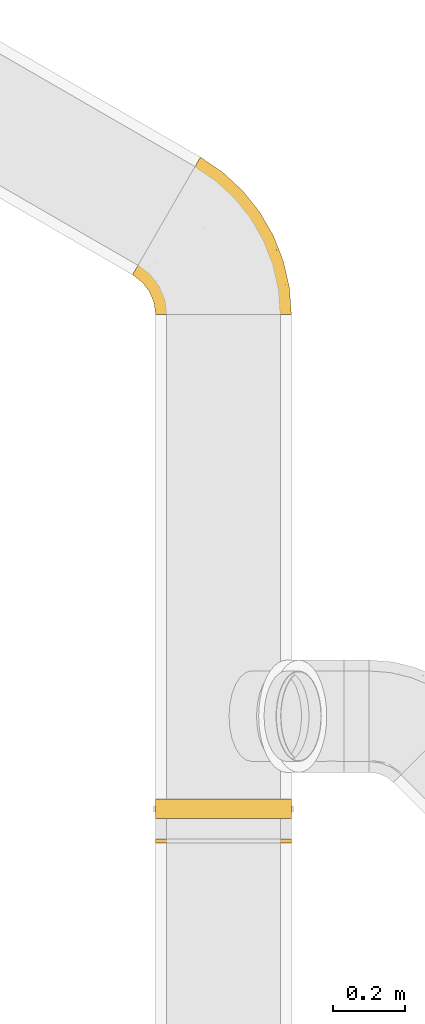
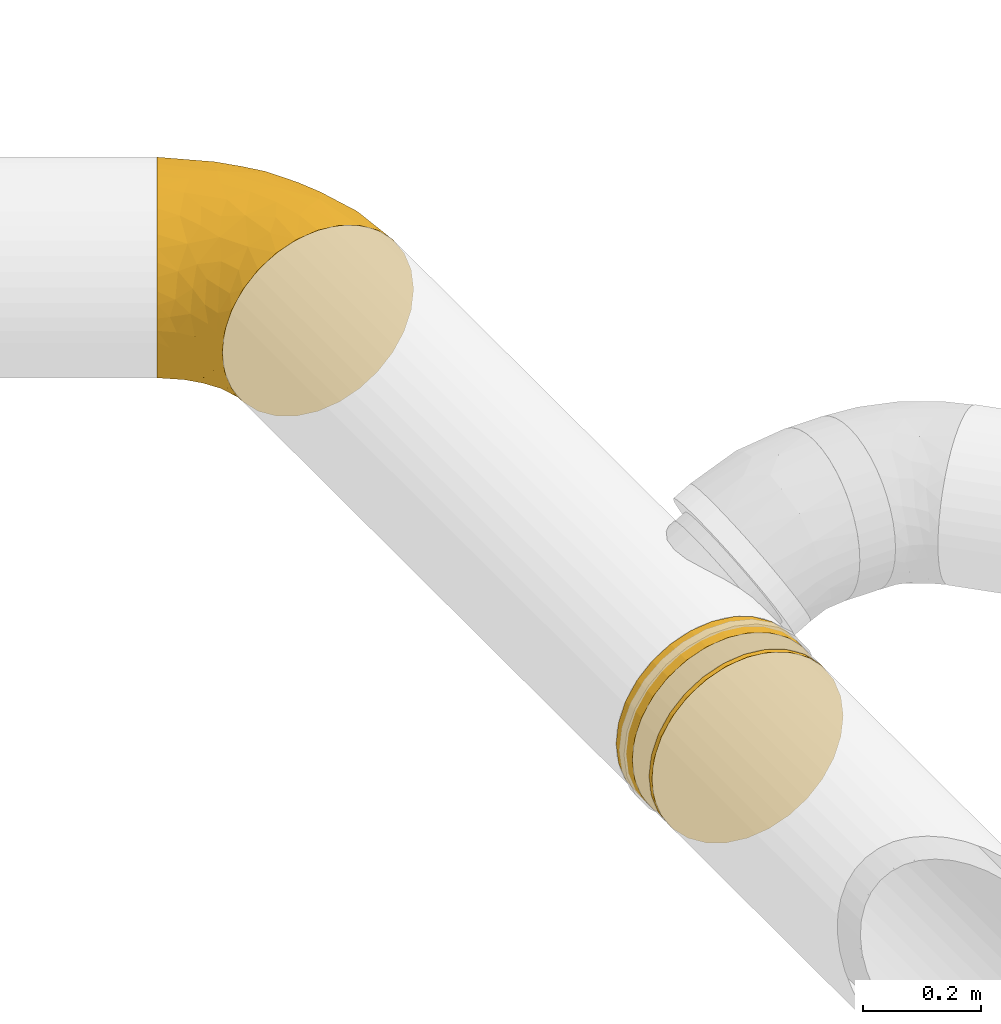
# One storey, part 4 of 21: 3 coverings.
"""IFC2X3 building model written with IfcOpenShell, lengths in millimetres."""

from ifc_helpers import new_model, entity, si_unit, converted_unit, derived_unit, direction, frame, origin_with_axes, place, context, subcontext, project, spatial, open_shell, surface_model, source, transform, mapped, element, save


model = new_model("IFC2X3")

# Units and contexts
model_context = context("Model", 3, precision=0.01, world=frame((0.0, 4.29681676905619e-09, 0.0)), true_north=direction((4.01073788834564e-13, 1.0)))
plan_context = context("Plan", 3, precision=0.01, world=frame((0.0, 4.29681676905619e-09, 0.0)), true_north=direction((4.01073788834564e-13, 1.0)))
body_context = subcontext(model_context, "Body", "Model", "MODEL_VIEW")
ifc_project = project(units=[converted_unit("PLANEANGLEUNIT", "DEGREE", entity("IfcPositiveLengthMeasure", 0.0174532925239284), si_unit("PLANEANGLEUNIT", "RADIAN"), dimensions=[0, 0, 0, 0, 0, 0, 0]), si_unit("AREAUNIT", "SQUARE_METRE"), si_unit("LENGTHUNIT", "METRE", prefix="MILLI"), si_unit("MASSUNIT", "GRAM", prefix="KILO"), si_unit("POWERUNIT", "WATT"), si_unit("PRESSUREUNIT", "PASCAL"), si_unit("FORCEUNIT", "NEWTON", prefix="KILO"), si_unit("ELECTRICVOLTAGEUNIT", "VOLT"), si_unit("ELECTRICCURRENTUNIT", "AMPERE"), si_unit("THERMODYNAMICTEMPERATUREUNIT", "DEGREE_CELSIUS"), si_unit("TIMEUNIT", "SECOND"), si_unit("VOLUMEUNIT", "CUBIC_METRE"), derived_unit("LINEARVELOCITYUNIT", [(si_unit("LENGTHUNIT", "METRE"), 1), (si_unit("TIMEUNIT", "SECOND"), -1)]), derived_unit("VOLUMETRICFLOWRATEUNIT", [(si_unit("VOLUMEUNIT", "CUBIC_METRE"), 1), (si_unit("TIMEUNIT", "SECOND"), -1)]), derived_unit("THERMALTRANSMITTANCEUNIT", [(si_unit("POWERUNIT", "WATT"), 1), (si_unit("THERMODYNAMICTEMPERATUREUNIT", "KELVIN"), -1), (si_unit("AREAUNIT", "SQUARE_METRE"), -1)]), derived_unit("SOUNDPRESSUREUNIT", [(si_unit("PRESSUREUNIT", "PASCAL"), 1)])], contexts=[model_context, plan_context])

# Site, building, storey
site_placement = place(None, frame((0.0, -4.29681676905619e-09, 0.0), z_axis=(0.0, 0.0, 1.0), x_axis=(1.0, 0.0, 0.0)))
site = spatial("IfcSite", under=ifc_project, at=site_placement, Name="ENGM", CompositionType="ELEMENT")
building_placement = place(site_placement, frame((0.0, 4.29681676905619e-09, 0.0), z_axis=(0.0, 0.0, 1.0), x_axis=(1.0, 0.0, 0.0)))
building = spatial("IfcBuilding", under=site, at=building_placement, Name="TI", CompositionType="ELEMENT")
storey_placement = place(building_placement, frame((0.0, 0.0, 210900.0), z_axis=(0.0, 0.0, 1.0), x_axis=(1.0, 0.0, 0.0)))
storey = spatial("IfcBuildingStorey", under=building, at=storey_placement, Name="Nivå F", CompositionType="ELEMENT", Elevation=210900.0)

# Coverings
shared_shape_1 = source(origin_with_axes(), body_context, "Body", "SurfaceModel", [
    surface_model("IfcShellBasedSurfaceModel", [(-70.05796, 250.44799, 24.47321), (-65.91434, 248.05566, 48.5277), (-59.08712, 244.11397, 71.7519), (-65.9132, 248.05501, -48.53263), (-71.4471, 251.25, 0.0), (-23.88876, 223.79219, 132.58067), (48.90217, 181.76632, 181.11), (-49.69085, 238.68903, -93.75296), (-59.08541, 244.11297, -71.75667), (-37.89027, 231.87596, -114.14517), (-70.05738, 250.44765, -24.47835), (48.90645, 181.76385, -181.11133), (90.93267, 157.5, -187.5), (69.73825, 169.73661, -185.89598), (153.07163, 121.62405, 173.22793), (112.12709, 145.2634, 185.89598), (132.95889, 133.23615, 181.11133), (172.12122, 110.62577, 162.38066), (189.78169, 100.42949, 148.75509), (205.7509, 91.20967, 132.58437), (219.75561, 83.12404, 114.14517), (231.55618, 76.31098, 93.75296), (112.13155, 145.26082, -185.89528), (132.96316, 133.23368, -181.11), (-181.86533, 187.5, 0.0), (-181.86533, 182.79898, -41.72268), (-181.86533, 168.93166, -81.3532), (-181.86533, 182.79898, 41.72268), (-181.86533, 146.5934, -116.90434), (-181.86533, 116.90434, -146.5934), (-181.86533, 81.3532, -168.93166), (-181.86533, 168.93166, 81.3532), (-181.86533, 116.90434, 146.5934), (-181.86533, 146.5934, 116.90434), (-181.86533, -168.93166, -81.3532), (-181.86533, -182.79898, -41.72268), (-181.86533, -146.5934, -116.90434), (-181.86533, -81.3532, 168.93166), (-181.86533, -146.5934, 116.90434), (-181.86533, -116.90434, 146.5934), (-181.86533, -168.93166, 81.3532), (-181.86533, -182.79898, 41.72268), (59.43866, 112.5219, 187.5), (60.18192, 57.43318, 183.51507), (-97.35497, -170.51043, 59.49457), (-106.9716, -181.8875, 0.0), (-33.75086, -165.17533, 0.0), (-86.31865, -57.399, 174.15921), (-42.69094, -84.52447, 153.22155), (36.16124, -137.73686, 0.0), (-2.78, -145.98652, 54.01754), (-181.86533, -187.5, 0.0), (-107.37447, -26.15289, 184.3563), (-74.12899, 18.99682, 187.5), (-127.16616, 4.78556, 187.5), (101.203, -100.18498, 0.0), (87.9691, -103.06479, 42.65811), (-68.62762, -147.70999, 95.48659), (159.92147, -53.35857, 0.0), (-24.36533, 42.202, 187.5), (-29.18279, -3.77199, 183.51507), (159.85492, -12.70472, 100.23521), (240.95074, 70.88702, 71.75667), (33.76438, -4.15369, 173.87509), (109.86293, 34.67616, 164.71571), (-93.64582, -127.40738, 128.9507), (112.62265, -18.78613, 134.99521), (-181.86533, -41.72268, 182.79898), (53.74969, -33.30113, 154.99686), (-181.86533, 0.0, 187.5), (64.51363, -93.10536, 94.90033), (30.62366, -82.69679, 129.1758), (162.94679, -38.48045, 56.43453), (251.92272, 64.55236, 24.47835), (211.00498, 1.69637, 0.0), (247.77854, 66.945, 48.53263), (253.31243, 63.75, 0.0), (20.61276, 73.696, 187.5), (90.93267, 157.5, 187.5), (-108.2874, 40.40341, 184.96685), (-181.86533, 41.72268, 182.79898), (-21.16372, 85.49431, 184.23748), (-181.86533, 81.3532, 168.93166), (-134.75942, 66.35002, 176.97813), (-65.14494, 206.88603, 104.16776), (-47.98106, 178.26052, 140.9681), (-124.45134, 188.4264, 64.61805), (-153.74596, 179.87289, 61.92732), (-134.0277, 166.26449, 99.756), (-71.72876, 78.81135, 179.43654), (-81.86071, 232.43701, 28.52549), (-128.19026, 106.55585, 158.76079), (-38.77936, 147.11278, 161.99662), (-2.7119, 167.48921, 168.16205), (-7.79937, 129.02545, 177.54812), (33.06864, 138.02837, 183.89637), (-161.61944, 187.00557, 27.88925), (-46.45792, 111.80714, 173.60986), (-160.20804, 160.26909, 99.75601), (-147.91089, 135.77045, 132.58252), (-106.67196, 206.46133, 41.01294), (-91.70922, 224.84389, 0.0), (-118.11534, 204.58175, 0.0), (69.73379, 169.73919, 185.89528), (-110.32896, 148.17261, 131.67703), (-80.80818, 178.8129, 118.36838), (-107.75283, 175.13448, 102.94433), (-37.89302, 231.87754, 114.14103), (-76.65049, 132.30286, 155.89877), (-7.91995, 214.57259, 148.75191), (-49.6931, 238.69032, 93.74847), (-95.95386, 195.92049, 82.92772), (28.78957, 193.37833, 173.22595), (-140.18646, 191.05035, 34.86179), (9.74022, 204.37648, 162.37804), (-81.02679, 221.59681, 60.26883), (-148.8659, 191.84445, 0.0), (-164.49746, 178.07521, -61.92732), (-161.51856, 186.99117, -28.08818), (-142.65645, 182.66443, -61.92732), (-144.48439, 136.45364, -132.58252), (-68.364, 221.83975, -82.93237), (-106.14928, 146.62622, -134.74407), (-126.51279, 161.94369, -109.44677), (-102.46498, 177.12765, -104.17208), (-151.61159, 101.89278, -158.76079), (-26.71643, 172.24479, -155.90166), (-23.88556, 223.79034, -132.58437), (-7.91636, 214.57051, -148.75509), (-115.23555, 110.32843, -158.76079), (-114.78092, 198.1302, -51.65203), (-94.86033, 218.56527, -29.7968), (-80.52615, 231.82228, -36.58382), (20.61276, 73.696, -187.5), (20.71797, 112.41669, -185.32074), (59.43866, 112.5219, -187.5), (-127.16616, 4.78556, -187.5), (-181.86533, 0.0, -187.5), (-181.86533, 41.72268, -182.79898), (-154.21006, 161.22784, -99.75601), (-113.52667, 59.95664, -180.44213), (-60.1113, 190.64946, -123.62946), (-63.82138, 157.41655, -145.62631), (-74.12899, 18.99682, -187.5), (-81.55838, 127.68142, -156.99318), (-73.22652, 90.49369, -175.65374), (-44.75773, 127.75938, -168.16434), (-24.60556, 90.40978, -183.00135), (-24.36533, 42.202, -187.5), (-87.58529, 214.97854, -60.27369), (9.74412, 204.37423, -162.38066), (-82.5029, 198.72626, -94.31197), (5.58827, 142.52068, -177.54975), (28.7937, 193.37595, -173.22793), (-61.83398, 57.59194, -184.92265), (-141.57774, 191.36828, -30.69987), (-101.44668, -59.71954, -174.63662), (-85.71326, -22.05482, -184.1084), (-17.44822, -24.07446, -177.01047), (139.47282, -14.60752, -118.47712), (40.99908, -96.53247, -108.37941), (33.51983, -59.23025, -146.68779), (-181.86533, -81.3532, -168.93166), (-181.86533, -41.72268, -182.79898), (127.24475, -76.26729, -37.86292), (186.47443, -13.42455, -57.41033), (115.02838, -70.03267, -76.45156), (61.95183, 48.16759, -181.65521), (96.50865, 19.50614, -163.95538), (-97.85661, -170.59249, -59.50926), (-91.63353, -95.31122, -155.2642), (-181.86533, -116.90434, -146.5934), (-3.50153, -144.7562, -58.49395), (-55.44369, -145.63435, -93.24949), (169.58344, -11.04715, -90.16297), (219.75835, 83.12245, -114.14103), (231.55843, 76.30968, -93.74847), (140.06819, 23.68222, -144.75413), (-60.24341, -120.81121, -127.51474), (153.07578, 121.62166, -173.22595), (172.12512, 110.62352, -162.37804), (189.78529, 100.42742, -148.75191), (247.77968, 66.94434, -48.5277), (240.95244, 70.88603, -71.7519), (205.7541, 91.20781, -132.58067), (251.9233, 64.55201, -24.47321)], [open_shell([[[0, 1, 2]], [[3, 4, 0]], [[0, 5, 6]], [[3, 7, 8]], [[3, 9, 7]], [[10, 4, 3]], [[11, 12, 13]], [[14, 15, 16]], [[14, 17, 18]], [[19, 14, 18]], [[19, 20, 21]], [[22, 12, 23]], [[24, 25, 26]], [[27, 24, 26]], [[28, 29, 30]], [[31, 32, 33]], [[32, 31, 27]], [[34, 35, 36]], [[37, 38, 39]], [[40, 38, 41]], [[15, 42, 43]], [[44, 45, 46]], [[47, 37, 48]], [[46, 49, 50]], [[45, 41, 51]], [[52, 53, 54]], [[49, 55, 56]], [[40, 57, 38]], [[55, 58, 56]], [[59, 53, 60]], [[61, 62, 21]], [[46, 50, 44]], [[63, 64, 43]], [[38, 65, 39]], [[18, 64, 66]], [[37, 47, 67]], [[64, 68, 66]], [[69, 67, 52]], [[43, 64, 16]], [[38, 57, 65]], [[60, 47, 63]], [[60, 43, 59]], [[70, 50, 56]], [[52, 60, 53]], [[41, 44, 40]], [[63, 43, 60]], [[71, 66, 68]], [[39, 48, 37]], [[56, 58, 72]], [[68, 64, 63]], [[21, 20, 61]], [[61, 19, 66]], [[63, 48, 68]], [[19, 61, 20]], [[73, 72, 74]], [[19, 18, 66]], [[70, 61, 66]], [[75, 72, 73]], [[68, 48, 71]], [[72, 75, 62]], [[65, 71, 48]], [[74, 76, 73]], [[64, 18, 17]], [[66, 71, 70]], [[63, 47, 48]], [[59, 43, 77]], [[40, 44, 57]], [[78, 42, 15]], [[71, 65, 57]], [[42, 77, 43]], [[45, 44, 41]], [[64, 14, 16]], [[71, 57, 70]], [[43, 16, 15]], [[48, 39, 65]], [[72, 61, 70]], [[17, 14, 64]], [[52, 47, 60]], [[57, 44, 50]], [[58, 74, 72]], [[61, 72, 62]], [[50, 70, 57]], [[70, 56, 72]], [[49, 56, 50]], [[69, 52, 54]], [[47, 52, 67]], [[54, 53, 79]], [[54, 80, 69]], [[81, 59, 77]], [[82, 80, 83]], [[5, 84, 85]], [[86, 87, 88]], [[59, 89, 53]], [[90, 1, 0]], [[82, 83, 91]], [[83, 79, 89]], [[92, 93, 85]], [[94, 95, 93]], [[24, 27, 96]], [[97, 81, 94]], [[95, 94, 81]], [[98, 87, 31]], [[32, 99, 33]], [[100, 101, 102]], [[42, 103, 95]], [[27, 31, 87]], [[33, 98, 31]], [[104, 105, 106]], [[84, 5, 107]], [[89, 108, 91]], [[95, 77, 42]], [[79, 80, 54]], [[85, 109, 5]], [[93, 109, 85]], [[77, 95, 81]], [[84, 107, 110]], [[105, 84, 111]], [[95, 6, 112]], [[93, 92, 94]], [[93, 95, 112]], [[92, 97, 94]], [[42, 78, 103]], [[87, 113, 96]], [[109, 93, 114]], [[2, 115, 110]], [[82, 91, 32]], [[113, 100, 102]], [[115, 2, 1]], [[87, 86, 113]], [[84, 110, 115]], [[115, 1, 90]], [[93, 112, 114]], [[101, 90, 4]], [[106, 86, 88]], [[85, 84, 105]], [[115, 111, 84]], [[32, 91, 99]], [[99, 104, 88]], [[85, 108, 92]], [[103, 6, 95]], [[97, 108, 89]], [[89, 59, 81]], [[89, 91, 83]], [[104, 91, 108]], [[98, 99, 88]], [[89, 79, 53]], [[80, 79, 83]], [[100, 86, 111]], [[113, 102, 116]], [[111, 115, 100]], [[100, 115, 90]], [[108, 97, 92]], [[81, 97, 89]], [[91, 104, 99]], [[108, 85, 105]], [[106, 105, 111]], [[108, 105, 104]], [[86, 106, 111]], [[104, 106, 88]], [[99, 98, 33]], [[87, 98, 88]], [[113, 86, 100]], [[96, 113, 116]], [[24, 96, 116]], [[87, 96, 27]], [[4, 90, 0]], [[100, 90, 101]], [[117, 118, 119]], [[118, 24, 116]], [[29, 28, 120]], [[9, 121, 7]], [[25, 117, 26]], [[122, 123, 124]], [[29, 125, 30]], [[126, 127, 128]], [[129, 125, 120]], [[130, 102, 131]], [[4, 132, 101]], [[133, 134, 135]], [[136, 137, 138]], [[28, 26, 139]], [[138, 140, 136]], [[125, 140, 30]], [[141, 126, 142]], [[143, 136, 140]], [[129, 144, 145]], [[142, 126, 146]], [[129, 120, 122]], [[30, 140, 138]], [[147, 133, 148]], [[147, 145, 146]], [[132, 121, 149]], [[117, 139, 26]], [[141, 9, 127]], [[121, 9, 141]], [[101, 132, 131]], [[150, 126, 128]], [[127, 126, 141]], [[132, 3, 8]], [[121, 151, 149]], [[8, 121, 132]], [[124, 119, 130]], [[4, 10, 132]], [[152, 147, 146]], [[131, 132, 149]], [[150, 153, 152]], [[28, 139, 120]], [[152, 146, 126]], [[11, 152, 153]], [[145, 154, 140]], [[126, 150, 152]], [[134, 13, 135]], [[121, 8, 7]], [[12, 135, 13]], [[148, 143, 154]], [[134, 11, 13]], [[134, 147, 152]], [[155, 102, 130]], [[151, 121, 141]], [[141, 124, 151]], [[132, 10, 3]], [[130, 151, 124]], [[139, 123, 120]], [[123, 119, 124]], [[147, 134, 133]], [[134, 152, 11]], [[147, 148, 154]], [[129, 145, 140]], [[140, 154, 143]], [[147, 154, 145]], [[142, 124, 141]], [[122, 142, 144]], [[144, 142, 146]], [[124, 142, 122]], [[130, 131, 149]], [[102, 101, 131]], [[130, 149, 151]], [[119, 118, 155]], [[145, 144, 146]], [[122, 144, 129]], [[120, 125, 29]], [[140, 125, 129]], [[120, 123, 122]], [[119, 123, 139]], [[118, 117, 25]], [[139, 117, 119]], [[24, 118, 25]], [[118, 116, 155]], [[102, 155, 116]], [[130, 119, 155]], [[156, 157, 158]], [[159, 160, 161]], [[156, 162, 163]], [[164, 55, 49]], [[137, 136, 157]], [[58, 164, 165]], [[157, 143, 148]], [[160, 159, 166]], [[133, 135, 167]], [[167, 148, 133]], [[161, 158, 168]], [[158, 157, 148]], [[46, 45, 169]], [[170, 171, 162]], [[35, 34, 169]], [[170, 156, 158]], [[45, 51, 35]], [[143, 157, 136]], [[160, 172, 173]], [[163, 157, 156]], [[174, 175, 176]], [[172, 166, 164]], [[161, 168, 177]], [[169, 45, 35]], [[161, 170, 158]], [[46, 172, 49]], [[171, 178, 36]], [[168, 158, 167]], [[179, 168, 167]], [[163, 137, 157]], [[135, 12, 22]], [[164, 49, 172]], [[167, 22, 23]], [[173, 169, 34]], [[173, 178, 160]], [[168, 179, 180]], [[168, 180, 177]], [[34, 36, 173]], [[178, 171, 170]], [[170, 162, 156]], [[161, 178, 170]], [[177, 180, 181]], [[169, 172, 46]], [[174, 165, 166]], [[182, 165, 183]], [[160, 166, 172]], [[159, 184, 175]], [[74, 58, 165]], [[165, 164, 166]], [[165, 174, 183]], [[74, 165, 185]], [[165, 182, 185]], [[76, 74, 185]], [[167, 23, 179]], [[167, 158, 148]], [[166, 159, 174]], [[164, 58, 55]], [[159, 177, 184]], [[173, 172, 169]], [[167, 135, 22]], [[178, 161, 160]], [[36, 178, 173]], [[175, 174, 159]], [[183, 174, 176]], [[184, 177, 181]], [[161, 177, 159]], [[109, 114, 112]], [[128, 153, 150]], [[153, 128, 11]], [[128, 127, 3]], [[9, 3, 127]], [[181, 179, 184]], [[179, 181, 180]], [[176, 182, 183]], [[0, 2, 110]], [[110, 5, 0]], [[110, 107, 5]], [[109, 112, 6]], [[3, 0, 6]], [[109, 6, 5]], [[179, 128, 6]], [[179, 12, 11]], [[3, 6, 128]], [[128, 179, 11]], [[179, 6, 103]], [[103, 15, 14]], [[103, 14, 179]], [[19, 21, 75]], [[19, 75, 179]], [[75, 21, 62]], [[14, 19, 179]], [[179, 75, 73]], [[179, 23, 12]], [[179, 176, 184]], [[176, 179, 185]], [[176, 185, 182]], [[176, 175, 184]], [[179, 76, 185]], [[76, 179, 73]], [[15, 103, 78]], [[28, 30, 27]], [[28, 27, 26]], [[30, 35, 27]], [[32, 27, 82]], [[82, 27, 80]], [[80, 67, 69]], [[67, 80, 27]], [[30, 138, 137]], [[137, 163, 162]], [[162, 171, 30]], [[171, 36, 35]], [[171, 35, 30]], [[27, 35, 38]], [[67, 27, 37]], [[41, 38, 35]], [[37, 27, 38]], [[41, 35, 51]], [[30, 137, 162]]])]),
])
covering_1_placement = place(storey_placement, frame((607319.79165, 694815.68507, 2446.77914), z_axis=(-2.599999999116e-05, 1.99999999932e-06, 0.99999999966), x_axis=(5.1999999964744e-11, 0.999999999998, -1.999999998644e-06)))
element("IfcCovering", 1, at=covering_1_placement, inside=storey, Name="B-EI60", PredefinedType="INSULATION", context=body_context, shape_type="MappedRepresentation", body=[
    mapped(shared_shape_1, transform((0.0, 0.0, 0.0), scale=1.0)),
])
shared_shape_2 = source(origin_with_axes(), body_context, "Body", "SurfaceModel", [
    surface_model("IfcShellBasedSurfaceModel", [(27.5, 81.3532, -168.93166), (27.5, 0.0, -187.5), (27.5, 41.72268, -182.79898), (27.5, 146.5934, -116.90434), (27.5, 116.90434, -146.5934), (27.5, 182.79898, -41.72268), (27.5, -146.5934, -116.90434), (27.5, 168.93166, -81.3532), (27.5, -187.5, 0.0), (27.5, -81.3532, -168.93166), (27.5, -41.72268, -182.79898), (27.5, -116.90434, -146.5934), (27.5, -182.79898, -41.72268), (27.5, -168.93166, -81.3532), (27.5, 187.5, 0.0), (27.5, 41.72268, 182.79898), (27.5, 182.79898, 41.72268), (27.5, 168.93166, 81.3532), (27.5, 81.3532, 168.93166), (27.5, 146.5934, 116.90434), (27.5, -182.79898, 41.72268), (27.5, 116.90434, 146.5934), (27.5, 0.0, 187.5), (27.5, -116.90434, 146.5934), (27.5, -168.93166, 81.3532), (27.5, -81.3532, 168.93166), (27.5, -146.5934, 116.90434), (27.5, -41.72268, 182.79898), (-27.5, 41.72268, 182.79898), (-27.5, -81.3532, 168.93166), (-27.5, 0.0, 187.5), (-27.5, 116.90434, 146.5934), (-27.5, 81.3532, 168.93166), (-27.5, 182.79898, 41.72268), (-27.5, 168.93166, 81.3532), (-27.5, 146.5934, 116.90434), (-27.5, 81.3532, -168.93166), (-27.5, -182.79898, 41.72268), (-27.5, -116.90434, 146.5934), (-27.5, -41.72268, 182.79898), (-27.5, -146.5934, 116.90434), (-27.5, -168.93166, 81.3532), (-27.5, -182.79898, -41.72268), (-27.5, -187.5, 0.0), (-27.5, 182.79898, -41.72268), (-27.5, 146.5934, -116.90434), (-27.5, 168.93166, -81.3532), (-27.5, 116.90434, -146.5934), (-27.5, -146.5934, -116.90434), (-27.5, 0.0, -187.5), (-27.5, 41.72268, -182.79898), (-27.5, -168.93166, -81.3532), (-27.5, -41.72268, -182.79898), (-27.5, -81.3532, -168.93166), (-27.5, -116.90434, -146.5934), (-27.5, 187.5, 0.0)], [open_shell([[[0, 1, 2]], [[3, 0, 4]], [[5, 6, 0]], [[3, 7, 5]], [[0, 3, 5]], [[5, 8, 6]], [[1, 9, 10]], [[1, 0, 9]], [[11, 9, 6]], [[12, 13, 6]], [[6, 9, 0]], [[6, 8, 12]], [[8, 5, 14]], [[15, 16, 17]], [[18, 17, 19]], [[18, 15, 17]], [[15, 20, 16]], [[19, 21, 18]], [[20, 15, 22]], [[20, 23, 24]], [[20, 8, 16]], [[23, 20, 25]], [[26, 24, 23]], [[22, 25, 20]], [[22, 27, 25]], [[16, 8, 14]], [[28, 29, 30]], [[31, 28, 32]], [[33, 28, 34]], [[31, 35, 34]], [[28, 31, 34]], [[36, 37, 28]], [[29, 37, 38]], [[29, 39, 30]], [[40, 38, 41]], [[41, 38, 37]], [[37, 29, 28]], [[37, 42, 43]], [[44, 28, 33]], [[28, 44, 36]], [[45, 44, 46]], [[45, 47, 36]], [[48, 37, 36]], [[36, 44, 45]], [[49, 36, 50]], [[42, 48, 51]], [[37, 48, 42]], [[49, 52, 53]], [[54, 48, 53]], [[48, 36, 53]], [[49, 53, 36]], [[44, 33, 55]], [[16, 55, 33]], [[33, 34, 17]], [[35, 19, 34]], [[14, 55, 16]], [[17, 16, 33]], [[19, 17, 34]], [[35, 21, 19]], [[31, 32, 18]], [[32, 28, 18]], [[15, 28, 30]], [[18, 21, 31]], [[15, 18, 28]], [[30, 22, 15]], [[31, 21, 35]], [[27, 30, 39]], [[39, 29, 25]], [[38, 23, 29]], [[22, 30, 27]], [[25, 27, 39]], [[23, 25, 29]], [[38, 26, 23]], [[24, 40, 41]], [[37, 43, 8]], [[20, 41, 37]], [[26, 40, 24]], [[8, 20, 37]], [[41, 20, 24]], [[40, 26, 38]], [[12, 43, 42]], [[42, 51, 13]], [[48, 6, 51]], [[8, 43, 12]], [[13, 12, 42]], [[6, 13, 51]], [[48, 11, 6]], [[9, 54, 53]], [[53, 52, 10]], [[49, 1, 52]], [[11, 54, 9]], [[10, 9, 53]], [[1, 10, 52]], [[54, 11, 48]], [[2, 49, 50]], [[50, 36, 0]], [[47, 4, 36]], [[1, 49, 2]], [[0, 2, 50]], [[4, 0, 36]], [[47, 3, 4]], [[7, 45, 46]], [[46, 44, 5]], [[55, 14, 44]], [[3, 45, 7]], [[5, 7, 46]], [[14, 5, 44]], [[45, 3, 47]]])]),
])
covering_2_placement = place(storey_placement, frame((607319.79165, 693269.72474, 2446.77914), z_axis=(0.0, 0.0, 1.0), x_axis=(0.0, 1.0, 0.0)))
element("IfcCovering", 2, at=covering_2_placement, inside=storey, Name="B-EI60", PredefinedType="INSULATION", context=body_context, shape_type="MappedRepresentation", body=[
    mapped(shared_shape_2, transform((0.0, 0.0, 0.0), scale=1.0)),
])
shared_shape_3 = source(origin_with_axes(), body_context, "Body", "SurfaceModel", [
    surface_model("IfcShellBasedSurfaceModel", [(0.0, 81.3532, 168.93166), (0.0, -41.72268, 182.79898), (0.0, 41.72268, 182.79898), (0.0, 182.79898, -41.72268), (0.0, 182.79898, 41.72268), (0.0, 187.5, 0.0), (0.0, -116.90434, 146.5934), (0.0, -81.3532, 168.93166), (0.0, -116.90434, -146.5934), (0.0, -146.5934, -116.90434), (0.0, -81.3532, -168.93166), (0.0, -182.79898, -41.72268), (0.0, -187.5, 0.0), (0.0, -168.93166, -81.3532), (0.0, 0.0, -187.5), (0.0, -41.72268, -182.79898), (10.0, 81.3532, -168.93166), (10.0, 0.0, -187.5), (10.0, 41.72268, -182.79898), (10.0, 146.5934, -116.90434), (10.0, 116.90434, -146.5934), (10.0, -168.93166, -81.3532), (10.0, -187.5, 0.0), (10.0, 168.93166, -81.3532), (10.0, 182.79898, -41.72268), (10.0, -81.3532, -168.93166), (10.0, -41.72268, -182.79898), (10.0, -116.90434, -146.5934), (10.0, -146.5934, -116.90434), (10.0, -182.79898, -41.72268), (10.0, 187.5, 0.0), (10.0, 182.79898, 41.72268), (10.0, 168.93166, 81.3532), (10.0, 146.5934, 116.90434), (10.0, 81.3532, 168.93166), (10.0, 41.72268, 182.79898), (10.0, 116.90434, 146.5934), (10.0, 0.0, 187.5), (10.0, -182.79898, 41.72268), (10.0, -146.5934, 116.90434), (10.0, -168.93166, 81.3532), (10.0, -41.72268, 182.79898), (10.0, -81.3532, 168.93166), (10.0, -116.90434, 146.5934), (0.0, 0.0, 187.5), (0.0, 168.93166, 81.3532), (0.0, 146.5934, 116.90434), (0.0, 116.90434, 146.5934), (0.0, -182.79898, 41.72268), (0.0, -168.93166, 81.3532), (0.0, -146.5934, 116.90434), (0.0, 146.5934, -116.90434), (0.0, 168.93166, -81.3532), (0.0, 116.90434, -146.5934), (0.0, 81.3532, -168.93166), (0.0, 41.72268, -182.79898)], [open_shell([[[0, 1, 2]], [[3, 4, 5]], [[1, 6, 7]], [[8, 9, 10]], [[11, 12, 13]], [[14, 15, 10]], [[16, 17, 18]], [[19, 16, 20]], [[21, 19, 22]], [[19, 23, 24]], [[19, 21, 16]], [[24, 22, 19]], [[17, 25, 26]], [[17, 16, 25]], [[27, 25, 28]], [[28, 25, 21]], [[16, 21, 25]], [[22, 29, 21]], [[24, 30, 31]], [[31, 32, 33]], [[31, 33, 34]], [[31, 34, 22]], [[34, 35, 22]], [[34, 33, 36]], [[37, 22, 35]], [[38, 39, 40]], [[41, 38, 22]], [[41, 42, 43]], [[39, 38, 43]], [[43, 38, 41]], [[22, 37, 41]], [[31, 22, 24]], [[1, 44, 2]], [[45, 4, 46]], [[46, 4, 0]], [[0, 47, 46]], [[13, 48, 0]], [[6, 1, 48]], [[49, 50, 48]], [[48, 50, 6]], [[0, 48, 1]], [[48, 13, 12]], [[51, 0, 4]], [[4, 3, 51]], [[51, 3, 52]], [[51, 53, 54]], [[54, 13, 0]], [[0, 51, 54]], [[54, 55, 14]], [[13, 10, 9]], [[13, 54, 10]], [[14, 10, 54]], [[31, 5, 4]], [[4, 45, 32]], [[46, 33, 45]], [[30, 5, 31]], [[32, 31, 4]], [[33, 32, 45]], [[46, 36, 33]], [[47, 0, 34]], [[0, 2, 34]], [[35, 2, 44]], [[34, 36, 47]], [[35, 34, 2]], [[44, 37, 35]], [[47, 36, 46]], [[41, 44, 1]], [[1, 7, 42]], [[6, 43, 7]], [[37, 44, 41]], [[42, 41, 1]], [[43, 42, 7]], [[6, 39, 43]], [[40, 50, 49]], [[48, 12, 22]], [[38, 49, 48]], [[39, 50, 40]], [[22, 38, 48]], [[49, 38, 40]], [[50, 39, 6]], [[29, 12, 11]], [[11, 13, 21]], [[9, 28, 13]], [[22, 12, 29]], [[21, 29, 11]], [[28, 21, 13]], [[9, 27, 28]], [[25, 8, 10]], [[10, 15, 26]], [[14, 17, 15]], [[27, 8, 25]], [[26, 25, 10]], [[17, 26, 15]], [[8, 27, 9]], [[18, 14, 55]], [[55, 54, 16]], [[53, 20, 54]], [[17, 14, 18]], [[16, 18, 55]], [[20, 16, 54]], [[53, 19, 20]], [[23, 51, 52]], [[52, 3, 24]], [[5, 30, 3]], [[19, 51, 23]], [[24, 23, 52]], [[30, 24, 3]], [[51, 19, 53]]])]),
])
covering_3_placement = place(storey_placement, frame((607319.79165, 693185.62344, 2446.77914), z_axis=(0.0, 0.0, 1.0), x_axis=(0.0, -1.0, 0.0)))
element("IfcCovering", 3, at=covering_3_placement, inside=storey, Name="B-EI60", PredefinedType="INSULATION", context=body_context, shape_type="MappedRepresentation", body=[
    mapped(shared_shape_3, transform((0.0, 0.0, 0.0), scale=1.0)),
])

save(model, "model.ifc")
